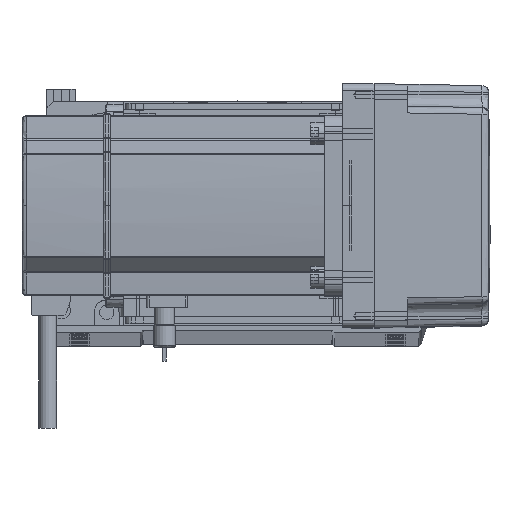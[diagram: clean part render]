
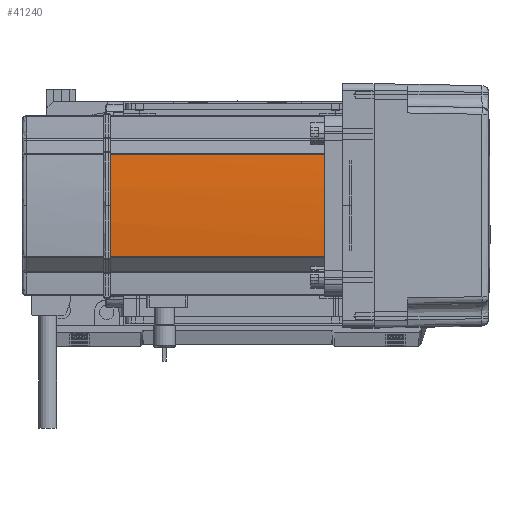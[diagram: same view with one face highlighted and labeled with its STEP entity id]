
A CAD part, top view. The second image highlights one B-rep face of the part: STEP entity #41240.
In plain terms, the highlighted cylindrical face has radius 270 mm (diameter 540 mm), a partial arc.
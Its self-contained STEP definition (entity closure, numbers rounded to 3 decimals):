
#25 = VERTEX_POINT ( 'NONE', #6703 ) ;
#941 = CARTESIAN_POINT ( 'NONE',  ( -39.042, 22.724, 0. ) ) ;
#2085 = AXIS2_PLACEMENT_3D ( 'NONE', #29494, #19392, #29724 ) ;
#6703 = CARTESIAN_POINT ( 'NONE',  ( -39.042, -22.724, 134. ) ) ;
#8544 = DIRECTION ( 'NONE',  ( 0., 0., 1. ) ) ;
#8758 = ORIENTED_EDGE ( 'NONE', *, *, #21125, .T. ) ;
#9743 = VERTEX_POINT ( 'NONE', #32345 ) ;
#10056 = CIRCLE ( 'NONE', #21456, 270. ) ;
#13862 = VERTEX_POINT ( 'NONE', #65154 ) ;
#14268 = CARTESIAN_POINT ( 'NONE',  ( -40., 0., 134. ) ) ;
#15760 = AXIS2_PLACEMENT_3D ( 'NONE', #18917, #55748, #29698 ) ;
#18419 = ORIENTED_EDGE ( 'NONE', *, *, #62090, .T. ) ;
#18690 = DIRECTION ( 'NONE',  ( 1., 0., 0. ) ) ;
#18917 = CARTESIAN_POINT ( 'NONE',  ( 230., 0., 134. ) ) ;
#19392 = DIRECTION ( 'NONE',  ( 0., 0., -1. ) ) ;
#20349 = EDGE_CURVE ( 'NONE', #9743, #13862, #10056, .T. ) ;
#21125 = EDGE_CURVE ( 'NONE', #9743, #25, #47070, .T. ) ;
#21456 = AXIS2_PLACEMENT_3D ( 'NONE', #44918, #55077, #18690 ) ;
#21711 = CARTESIAN_POINT ( 'NONE',  ( -39.042, 22.724, 134. ) ) ;
#21775 = EDGE_CURVE ( 'NONE', #32242, #40353, #30470, .T. ) ;
#23447 = VECTOR ( 'NONE', #26662, 1000. ) ;
#24681 = DIRECTION ( 'NONE',  ( 1., 0., 0. ) ) ;
#26662 = DIRECTION ( 'NONE',  ( 0., 0., -1. ) ) ;
#29494 = CARTESIAN_POINT ( 'NONE',  ( 230., 0., 134. ) ) ;
#29698 = DIRECTION ( 'NONE',  ( 1., 0., 0. ) ) ;
#29724 = DIRECTION ( 'NONE',  ( 1., 0., 0. ) ) ;
#30470 = CIRCLE ( 'NONE', #2085, 270. ) ;
#31089 = EDGE_LOOP ( 'NONE', ( #18419, #62244, #34652, #58034, #8758 ) ) ;
#32185 = CARTESIAN_POINT ( 'NONE',  ( -39.042, -22.724, 0. ) ) ;
#32242 = VERTEX_POINT ( 'NONE', #14268 ) ;
#32345 = CARTESIAN_POINT ( 'NONE',  ( -39.042, -22.724, 39. ) ) ;
#34652 = ORIENTED_EDGE ( 'NONE', *, *, #57751, .T. ) ;
#34766 = CARTESIAN_POINT ( 'NONE',  ( 230., 0., 0. ) ) ;
#39616 = VECTOR ( 'NONE', #42966, 1000. ) ;
#40353 = VERTEX_POINT ( 'NONE', #21711 ) ;
#41240 = ADVANCED_FACE ( 'NONE', ( #47071 ), #57840, .T. ) ;
#42966 = DIRECTION ( 'NONE',  ( 0., 0., 1. ) ) ;
#44918 = CARTESIAN_POINT ( 'NONE',  ( 230., 0., 39. ) ) ;
#47070 = LINE ( 'NONE', #32185, #39616 ) ;
#47071 = FACE_OUTER_BOUND ( 'NONE', #31089, .T. ) ;
#50699 = LINE ( 'NONE', #941, #23447 ) ;
#55077 = DIRECTION ( 'NONE',  ( 0., 0., -1. ) ) ;
#55748 = DIRECTION ( 'NONE',  ( 0., 0., -1. ) ) ;
#57751 = EDGE_CURVE ( 'NONE', #40353, #13862, #50699, .T. ) ;
#57840 = CYLINDRICAL_SURFACE ( 'NONE', #64404, 270. ) ;
#58034 = ORIENTED_EDGE ( 'NONE', *, *, #20349, .F. ) ;
#59324 = CIRCLE ( 'NONE', #15760, 270. ) ;
#62090 = EDGE_CURVE ( 'NONE', #25, #32242, #59324, .T. ) ;
#62244 = ORIENTED_EDGE ( 'NONE', *, *, #21775, .T. ) ;
#64404 = AXIS2_PLACEMENT_3D ( 'NONE', #34766, #8544, #24681 ) ;
#65154 = CARTESIAN_POINT ( 'NONE',  ( -39.042, 22.724, 39. ) ) ;
